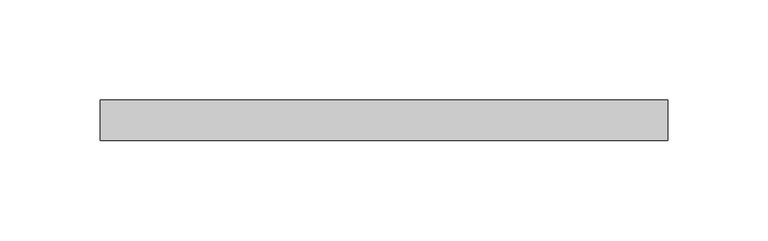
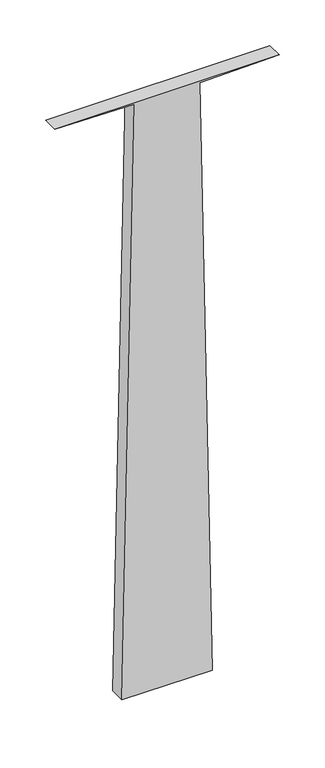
"""IFC4 building model written with IfcOpenShell, lengths in millimetres: plate geometry, 空系统嵌板 : 空."""

from ifc_helpers import new_model, si_unit, frame, origin, place, context, project, spatial, polyline, outline, extrude, source, transform, mapped, element, save


def plate_1539b490(model_context):
    return source(origin(), model_context, "Body", "SweptSolid", [
        extrude(outline(polyline([(0.0, -56.7371164), (0.0, 56.7371164), (787.9796478, 41.1464408), (789.9578239, 141.126873), (789.9578239, -141.126873), (787.9796478, -41.1464408), (0.0, -56.7371164)])), frame((0.0, -10.0, 0.0), z_axis=(0.0, 1.0, 0.0), x_axis=(0.0, 0.0, 1.0)), (0.0, 0.0, 1.0), 20.0),
    ])


if __name__ == "__main__":
    model = new_model("IFC4")
    model_context = context("Model", 3, world=origin())
    ifc_project = project(units=[si_unit("LENGTHUNIT", "METRE", prefix="MILLI")], contexts=[model_context])
    site = spatial("IfcSite", under=ifc_project)
    building = spatial("IfcBuilding", under=site)
    placement = place(None, origin())
    plate_shape = plate_1539b490(model_context)
    element("IfcPlate", 1, ObjectType="空系统嵌板 : 空", at=placement, inside=building, context=model_context, shape_type="MappedRepresentation", body=[
        mapped(plate_shape, transform((0.0, 0.0, 0.0), x_axis=(1.0, 0.0, 0.0), y_axis=(0.0, 1.0, 0.0), z_axis=(0.0, 0.0, 1.0))),
    ])
    save(model, "model.ifc")
